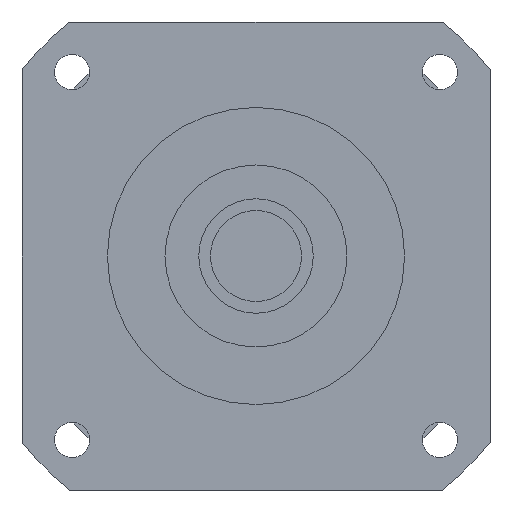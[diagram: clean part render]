
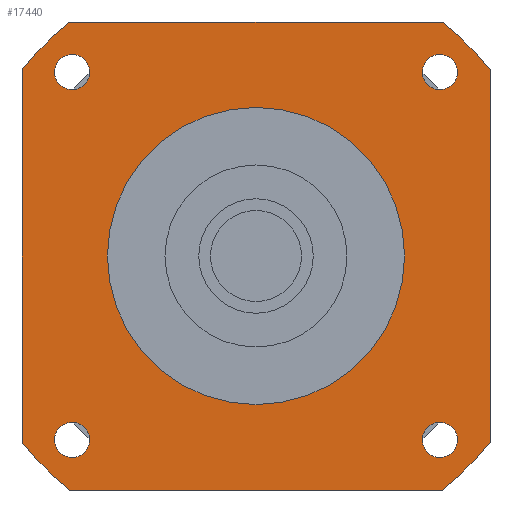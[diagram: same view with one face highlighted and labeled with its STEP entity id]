
A CAD part, left-side view. The second image highlights one B-rep face of the part: STEP entity #17440.
In plain terms, the highlighted planar face has unit normal (-1, 0, 0) as drawn and (0, 0, -1) by its records, which use the part's own axes.
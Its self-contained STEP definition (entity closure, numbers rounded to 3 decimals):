
#13210=CARTESIAN_POINT('',(63.961,-70.711,-91.7));
#13220=VERTEX_POINT('',#13210);
#13250=CARTESIAN_POINT('',(70.711,-70.711,-91.7));
#13260=DIRECTION('',(0.,0.,-1.));
#13270=DIRECTION('',(1.,0.,0.));
#13280=AXIS2_PLACEMENT_3D('',#13250,#13260,#13270);
#13290=CIRCLE('',#13280,6.75);
#13300=CARTESIAN_POINT('',(77.461,-70.711,-91.7));
#13310=VERTEX_POINT('',#13300);
#13320=EDGE_CURVE('',#13310,#13220,#13290,.T.);
#13560=CARTESIAN_POINT('',(90.,71.589,-91.7));
#13570=VERTEX_POINT('',#13560);
#13620=CARTESIAN_POINT('',(90.,90.,-91.7));
#13630=DIRECTION('',(0.,-1.,0.));
#13640=VECTOR('',#13630,1000.);
#13650=LINE('',#13620,#13640);
#13660=CARTESIAN_POINT('',(90.,-71.589,-91.7));
#13670=VERTEX_POINT('',#13660);
#13680=EDGE_CURVE('',#13570,#13670,#13650,.T.);
#15960=CARTESIAN_POINT('',(70.711,63.961,-91.7));
#15970=VERTEX_POINT('',#15960);
#16000=CARTESIAN_POINT('',(70.711,70.711,-91.7));
#16010=DIRECTION('',(0.,0.,-1.));
#16020=DIRECTION('',(0.,1.,0.));
#16030=AXIS2_PLACEMENT_3D('',#16000,#16010,#16020);
#16040=CIRCLE('',#16030,6.75);
#16050=CARTESIAN_POINT('',(70.711,77.461,-91.7));
#16060=VERTEX_POINT('',#16050);
#16070=EDGE_CURVE('',#16060,#15970,#16040,.T.);
#16190=CARTESIAN_POINT('',(90.,90.,-91.7));
#16200=DIRECTION('',(0.,0.,-1.));
#16210=DIRECTION('',(1.,0.,0.));
#16220=AXIS2_PLACEMENT_3D('',#16190,#16200,#16210);
#16230=PLANE('',#16220);
#16240=CARTESIAN_POINT('',(-70.711,-70.711,-91.7));
#16250=DIRECTION('',(0.,0.,-1.));
#16260=DIRECTION('',(0.,-1.,0.));
#16270=AXIS2_PLACEMENT_3D('',#16240,#16250,#16260);
#16280=CIRCLE('',#16270,6.75);
#16290=CARTESIAN_POINT('',(-70.711,-77.461,-91.7));
#16300=VERTEX_POINT('',#16290);
#16310=CARTESIAN_POINT('',(-70.711,-63.961,-91.7));
#16320=VERTEX_POINT('',#16310);
#16330=EDGE_CURVE('',#16300,#16320,#16280,.T.);
#16340=ORIENTED_EDGE('',*,*,#16330,.F.);
#16350=EDGE_CURVE('',#16320,#16300,#16280,.T.);
#16360=ORIENTED_EDGE('',*,*,#16350,.F.);
#16370=EDGE_LOOP('',(#16360,#16340));
#16380=FACE_BOUND('',#16370,.T.);
#16390=CARTESIAN_POINT('',(-70.711,70.711,-91.7));
#16400=DIRECTION('',(0.,0.,-1.));
#16410=DIRECTION('',(-1.,0.,0.));
#16420=AXIS2_PLACEMENT_3D('',#16390,#16400,#16410);
#16430=CIRCLE('',#16420,6.75);
#16440=CARTESIAN_POINT('',(-77.461,70.711,-91.7));
#16450=VERTEX_POINT('',#16440);
#16460=CARTESIAN_POINT('',(-63.961,70.711,-91.7));
#16470=VERTEX_POINT('',#16460);
#16480=EDGE_CURVE('',#16450,#16470,#16430,.T.);
#16490=ORIENTED_EDGE('',*,*,#16480,.F.);
#16500=EDGE_CURVE('',#16470,#16450,#16430,.T.);
#16510=ORIENTED_EDGE('',*,*,#16500,.F.);
#16520=EDGE_LOOP('',(#16510,#16490));
#16530=FACE_BOUND('',#16520,.T.);
#16540=ORIENTED_EDGE('',*,*,#16070,.F.);
#16550=EDGE_CURVE('',#15970,#16060,#16040,.T.);
#16560=ORIENTED_EDGE('',*,*,#16550,.F.);
#16570=EDGE_LOOP('',(#16560,#16540));
#16580=FACE_BOUND('',#16570,.T.);
#16590=CARTESIAN_POINT('',(0.,0.,
-91.7));
#16600=DIRECTION('',(0.,0.,1.));
#16610=DIRECTION('',(0.,1.,0.));
#16620=AXIS2_PLACEMENT_3D('',#16590,#16600,#16610);
#16630=CIRCLE('',#16620,57.15);
#16640=CARTESIAN_POINT('',(-57.15,0.,-91.7));
#16650=VERTEX_POINT('',#16640);
#16660=CARTESIAN_POINT('',(57.15,0.,-91.7));
#16670=VERTEX_POINT('',#16660);
#16680=EDGE_CURVE('',#16650,#16670,#16630,.T.);
#16690=ORIENTED_EDGE('',*,*,#16680,.T.);
#16700=CARTESIAN_POINT('',(0.,57.15,-91.7));
#16710=VERTEX_POINT('',#16700);
#16720=EDGE_CURVE('',#16710,#16650,#16630,.T.);
#16730=ORIENTED_EDGE('',*,*,#16720,.T.);
#16740=EDGE_CURVE('',#16670,#16710,#16630,.T.);
#16750=ORIENTED_EDGE('',*,*,#16740,.T.);
#16760=EDGE_LOOP('',(#16750,#16730,#16690));
#16770=FACE_BOUND('',#16760,.T.);
#16780=CARTESIAN_POINT('',(-90.,90.,-91.7));
#16790=DIRECTION('',(1.,0.,0.));
#16800=VECTOR('',#16790,1000.);
#16810=LINE('',#16780,#16800);
#16820=CARTESIAN_POINT('',(-71.589,90.,-91.7));
#16830=VERTEX_POINT('',#16820);
#16840=CARTESIAN_POINT('',(71.589,90.,-91.7));
#16850=VERTEX_POINT('',#16840);
#16860=EDGE_CURVE('',#16830,#16850,#16810,.T.);
#16870=ORIENTED_EDGE('',*,*,#16860,.T.);
#16880=CARTESIAN_POINT('',(0.,0.,
-91.7));
#16890=DIRECTION('',(0.,0.,-1.));
#16900=DIRECTION('',(1.,0.,0.));
#16910=AXIS2_PLACEMENT_3D('',#16880,#16890,#16900);
#16920=CIRCLE('',#16910,115.);
#16930=CARTESIAN_POINT('',(-90.,71.589,-91.7));
#16940=VERTEX_POINT('',#16930);
#16950=EDGE_CURVE('',#16940,#16830,#16920,.T.);
#16960=ORIENTED_EDGE('',*,*,#16950,.T.);
#16970=CARTESIAN_POINT('',(-90.,-90.,-91.7));
#16980=DIRECTION('',(0.,1.,0.));
#16990=VECTOR('',#16980,1000.);
#17000=LINE('',#16970,#16990);
#17010=CARTESIAN_POINT('',(-90.,-71.589,-91.7));
#17020=VERTEX_POINT('',#17010);
#17030=EDGE_CURVE('',#17020,#16940,#17000,.T.);
#17040=ORIENTED_EDGE('',*,*,#17030,.T.);
#17050=CARTESIAN_POINT('',(0.,0.,
-91.7));
#17060=DIRECTION('',(0.,0.,-1.));
#17070=DIRECTION('',(1.,0.,0.));
#17080=AXIS2_PLACEMENT_3D('',#17050,#17060,#17070);
#17090=CIRCLE('',#17080,115.);
#17100=CARTESIAN_POINT('',(-71.589,-90.,-91.7));
#17110=VERTEX_POINT('',#17100);
#17120=EDGE_CURVE('',#17110,#17020,#17090,.T.);
#17130=ORIENTED_EDGE('',*,*,#17120,.T.);
#17140=CARTESIAN_POINT('',(90.,-90.,-91.7));
#17150=DIRECTION('',(-1.,0.,0.));
#17160=VECTOR('',#17150,1000.);
#17170=LINE('',#17140,#17160);
#17180=CARTESIAN_POINT('',(71.589,-90.,-91.7));
#17190=VERTEX_POINT('',#17180);
#17200=EDGE_CURVE('',#17190,#17110,#17170,.T.);
#17210=ORIENTED_EDGE('',*,*,#17200,.T.);
#17220=CARTESIAN_POINT('',(0.,0.,
-91.7));
#17230=DIRECTION('',(0.,0.,-1.));
#17240=DIRECTION('',(1.,0.,0.));
#17250=AXIS2_PLACEMENT_3D('',#17220,#17230,#17240);
#17260=CIRCLE('',#17250,115.);
#17270=EDGE_CURVE('',#13670,#17190,#17260,.T.);
#17280=ORIENTED_EDGE('',*,*,#17270,.T.);
#17290=ORIENTED_EDGE('',*,*,#13680,.T.);
#17300=CARTESIAN_POINT('',(0.,0.,
-91.7));
#17310=DIRECTION('',(0.,0.,-1.));
#17320=DIRECTION('',(1.,0.,0.));
#17330=AXIS2_PLACEMENT_3D('',#17300,#17310,#17320);
#17340=CIRCLE('',#17330,115.);
#17350=EDGE_CURVE('',#16850,#13570,#17340,.T.);
#17360=ORIENTED_EDGE('',*,*,#17350,.T.);
#17370=EDGE_LOOP('',(#17360,#17290,#17280,#17210,#17130,#17040,#16960,
#16870));
#17380=FACE_OUTER_BOUND('',#17370,.T.);
#17390=ORIENTED_EDGE('',*,*,#13320,.F.);
#17400=EDGE_CURVE('',#13220,#13310,#13290,.T.);
#17410=ORIENTED_EDGE('',*,*,#17400,.F.);
#17420=EDGE_LOOP('',(#17410,#17390));
#17430=FACE_BOUND('',#17420,.T.);
#17440=ADVANCED_FACE('',(#16380,#16530,#16580,#16770,#17380,#17430),
#16230,.T.);
